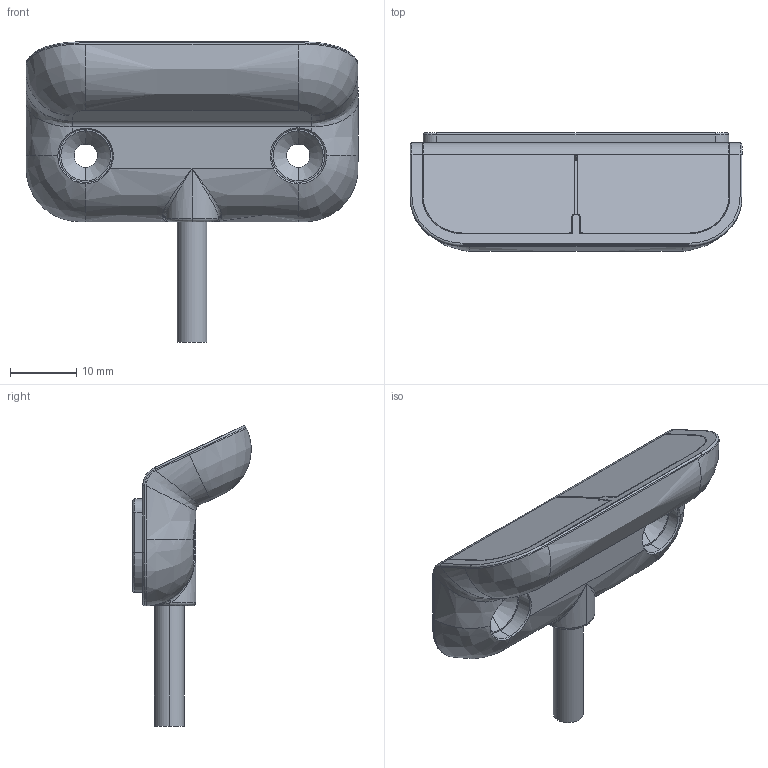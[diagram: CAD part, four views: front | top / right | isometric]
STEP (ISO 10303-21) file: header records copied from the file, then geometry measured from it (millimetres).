
FILE_DESCRIPTION (( 'STEP AP214' ), '1' );
FILE_NAME ('TFH8-A.STEP', '2015-06-03T09:38:25', ( '' ), ( '' ), 'SwSTEP 2.0', 'SolidWorks 2010', '' );
FILE_SCHEMA (( 'AUTOMOTIVE_DESIGN' ));
Length unit declared in the file: millimetre
Products named in the file (1): TFH8-A
Bounding box: 50 x 17.81 x 45.24 mm (x, y, z)
Volume: 11327.2 mm3; surface area: 8042.1 mm2
Topology: 5 solids, 5 shells, 330 faces, 842 edges, 500 vertices
Faces by surface type: cylinder 121, plane 84, bspline 59, torus 32, sphere 28, cone 6
Entity records: 14740 total; most frequent: CARTESIAN_POINT 7077, ORIENTED_EDGE 1636, DIRECTION 1546, EDGE_CURVE 818, AXIS2_PLACEMENT_3D 612, VERTEX_POINT 500, EDGE_LOOP 340, CIRCLE 340
